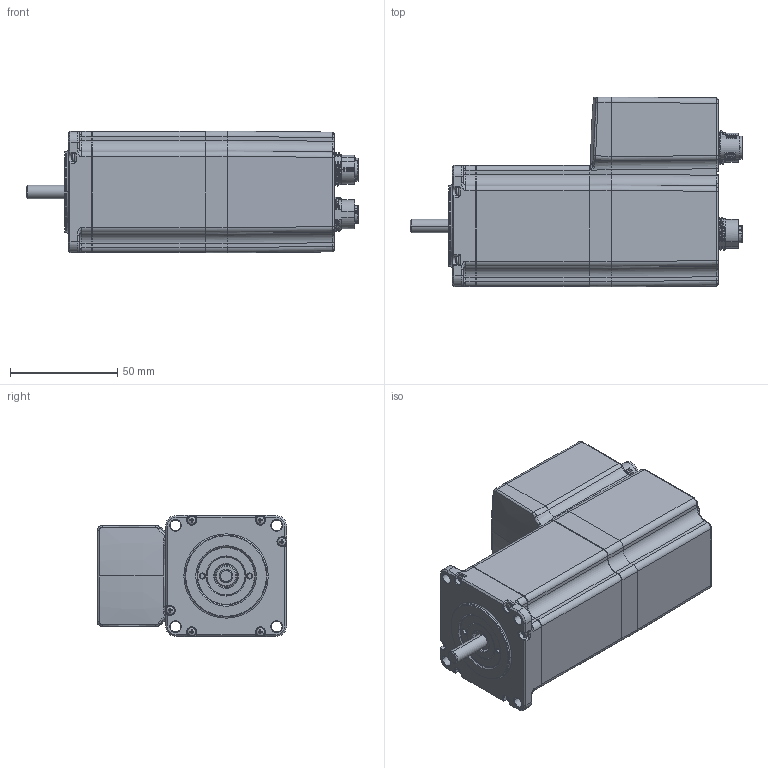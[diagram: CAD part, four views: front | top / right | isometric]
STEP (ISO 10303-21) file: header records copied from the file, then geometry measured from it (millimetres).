
FILE_DESCRIPTION((''),'2;1');
FILE_NAME('STEPPERASSY_ASM','2022-10-23T16:54:17',('Administrator'),(''),'CREO PARAMETRIC BY PTC INC, 2022014','CREO PARAMETRIC BY PTC INC, 2022014','');
FILE_SCHEMA(('AUTOMOTIVE_DESIGN { 1 0 10303 214 1 1 1 1 }'));
Products named in the file (8): FRONT_CAP_1; STATOR; AXIAL_CON; SHAFT_1; LOCK_NUT_1; SEALING_1; FAST_S; STEPPERASSY_ASM
Assembly tree (12 placements, depth 2):
  STEPPERASSY_ASM
    FRONT_CAP_1
    STATOR
    AXIAL_CON
    SHAFT_1
    LOCK_NUT_1
    SEALING_1
    FAST_S  x6
Bounding box: 154.7 x 88.42 x 56.67 mm (x, y, z)
Volume: 443830.2 mm3; surface area: 61266.5 mm2
Topology: 13 solids, 14 shells, 2054 faces, 5108 edges, 3167 vertices
Faces by surface type: plane 769, cylinder 576, bspline 266, cone 222, torus 186, sphere 33, extrusion 2
Entity records: 101482 total; most frequent: CARTESIAN_POINT 35199, ORIENTED_EDGE 9120, DIRECTION 8761, PRESENTATION_STYLE_ASSIGNMENT 4916, EDGE_CURVE 4562, STYLED_ITEM 4288, CURVE_STYLE 4062, AXIS2_PLACEMENT_3D 3259
